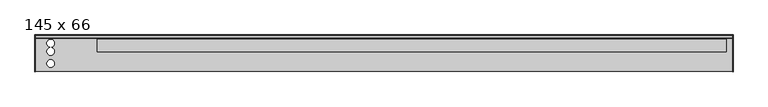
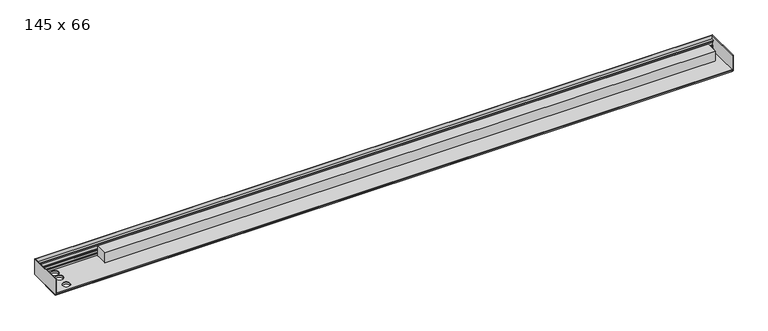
"""IFC4 building model written with IfcOpenShell, lengths in millimetres: proxy geometry, Mohlenhof_Внутрипольный конвектор_QSKM : 145 x 66."""

from ifc_helpers import new_model, si_unit, point, frame, frame_2d, origin, place, context, project, spatial, polyline, circle_curve, trimmed, segment, composite_curve, outline, extrude, source, transform, mapped, element, save


def proxy_145_x_66_4cadcc30(model_context):
    return source(origin(), model_context, "Body", "SweptSolid", [
        extrude(outline(polyline([(-100.0, -48.5473602), (-101.5, -49.2468216), (-102.5, -49.2468216), (-102.5, -46.0008038), (-105.0, -46.0008038), (-105.0, -56.5008038), (-102.5, -56.5008038), (-102.5, -53.2468216), (-101.5, -53.2468216), (-100.0, -53.9462831), (-100.0, -66.5), (-104.0, -66.5), (-104.0, -65.2), (-102.0, -65.2), (-102.0, -62.5), (-113.0, -62.5), (-113.0, -54.9172677), (-111.5827323, -53.5), (-108.0, -53.5), (-108.0, -45.91), (-106.0, -43.91), (-106.0, -39.5), (-105.0, -39.5), (-105.0, -43.5), (-102.5043561, -43.5), (-102.5043561, -23.0), (-105.0, -23.0), (-105.0, -27.0), (-106.0, -27.0), (-106.0, -17.0), (-111.6043561, -17.0), (-111.6043561, -15.0), (-101.6, -15.0), (-101.6, 0.0), (-100.0, 0.0), (-100.0, -48.5473602)])), frame((-1373.0, 0.0, 0.0), z_axis=(1.0, 0.0, 0.0), x_axis=(0.0, 1.0, 0.0)), (0.0, 0.0, 1.0), 2746.0),
        extrude(outline(polyline([(1373.0, -104.499991), (1373.0, -240.5), (-1373.0, -240.5), (-1373.0, -104.499991), (1373.0, -104.499991)]), holes=[composite_curve([segment(trimmed(circle_curve(frame_2d((-1313.0, -133.0)), 15.0), [point((-1328.0, -133.0))], [point((-1298.0, -133.0))], True, "CARTESIAN"), True, "CONTINUOUS"), segment(trimmed(circle_curve(frame_2d((-1313.0, -133.0)), 15.0), [point((-1298.0, -133.0))], [point((-1328.0, -133.0))], True, "CARTESIAN"), True, "CONTINUOUS")], self_intersect=False), composite_curve([segment(trimmed(circle_curve(frame_2d((-1313.0, -165.0)), 15.0), [point((-1328.0, -165.0))], [point((-1298.0, -165.0))], True, "CARTESIAN"), True, "CONTINUOUS"), segment(trimmed(circle_curve(frame_2d((-1313.0, -165.0)), 15.0), [point((-1298.0, -165.0))], [point((-1328.0, -165.0))], True, "CARTESIAN"), True, "CONTINUOUS")], self_intersect=False), composite_curve([segment(trimmed(circle_curve(frame_2d((-1313.0, -213.0)), 15.0), [point((-1328.0, -213.0))], [point((-1298.0, -213.0))], True, "CARTESIAN"), True, "CONTINUOUS"), segment(trimmed(circle_curve(frame_2d((-1313.0, -213.0)), 15.0), [point((-1298.0, -213.0))], [point((-1328.0, -213.0))], True, "CARTESIAN"), True, "CONTINUOUS")], self_intersect=False)]), frame((0.0, 0.0, -71.5), z_axis=(0.0, 0.0, 1.0), x_axis=(1.0, 0.0, 0.0)), (0.0, 0.0, 1.0), 6.3),
        extrude(outline(polyline([(1373.0, -102.0), (1373.0, -243.0), (-1373.0, -243.0), (-1373.0, -102.0), (1373.0, -102.0)]), holes=[composite_curve([segment(trimmed(circle_curve(frame_2d((-1313.0, -133.0)), 15.0), [point((-1328.0, -133.0))], [point((-1298.0, -133.0))], True, "CARTESIAN"), True, "CONTINUOUS"), segment(trimmed(circle_curve(frame_2d((-1313.0, -133.0)), 15.0), [point((-1298.0, -133.0))], [point((-1328.0, -133.0))], True, "CARTESIAN"), True, "CONTINUOUS")], self_intersect=False), composite_curve([segment(trimmed(circle_curve(frame_2d((-1313.0, -165.0)), 15.0), [point((-1328.0, -165.0))], [point((-1298.0, -165.0))], True, "CARTESIAN"), True, "CONTINUOUS"), segment(trimmed(circle_curve(frame_2d((-1313.0, -165.0)), 15.0), [point((-1298.0, -165.0))], [point((-1328.0, -165.0))], True, "CARTESIAN"), True, "CONTINUOUS")], self_intersect=False), composite_curve([segment(trimmed(circle_curve(frame_2d((-1313.0, -213.0)), 15.0), [point((-1328.0, -213.0))], [point((-1298.0, -213.0))], True, "CARTESIAN"), True, "CONTINUOUS"), segment(trimmed(circle_curve(frame_2d((-1313.0, -213.0)), 15.0), [point((-1298.0, -213.0))], [point((-1328.0, -213.0))], True, "CARTESIAN"), True, "CONTINUOUS")], self_intersect=False)]), frame((0.0, 0.0, -65.2), z_axis=(0.0, 0.0, 1.0), x_axis=(1.0, 0.0, 0.0)), (0.0, 0.0, 1.0), 2.7),
        extrude(outline(polyline([(1348.0, -117.0), (1348.0, -167.0), (-1130.0, -167.0), (-1130.0, -117.0), (1348.0, -117.0)])), frame((0.0, 0.0, -62.5), z_axis=(0.0, 0.0, 1.0), x_axis=(1.0, 0.0, 0.0)), (0.0, 0.0, 1.0), 43.0),
        extrude(outline(polyline([(1375.0, -245.0), (1373.0, -245.0), (1373.0, -100.0), (1375.0, -100.0), (1375.0, -245.0)])), frame((0.0, 0.0, -66.5), z_axis=(0.0, 0.0, 1.0), x_axis=(1.0, 0.0, 0.0)), (0.0, 0.0, 1.0), 66.5),
        extrude(outline(polyline([(-1373.0, -100.0), (-1373.0, -245.0), (-1375.0, -245.0), (-1375.0, -100.0), (-1373.0, -100.0)])), frame((0.0, 0.0, -66.5), z_axis=(0.0, 0.0, 1.0), x_axis=(1.0, 0.0, 0.0)), (0.0, 0.0, 1.0), 66.5),
    ])


if __name__ == "__main__":
    model = new_model("IFC4")
    model_context = context("Model", 3, world=origin())
    ifc_project = project(units=[si_unit("LENGTHUNIT", "METRE", prefix="MILLI")], contexts=[model_context])
    site = spatial("IfcSite", under=ifc_project)
    building = spatial("IfcBuilding", under=site)
    placement = place(None, origin())
    proxy_145_x_66_shape = proxy_145_x_66_4cadcc30(model_context)
    element("IfcBuildingElementProxy", 1, Name="Mohlenhof_Внутрипольный конвектор_QSKM : 145 x 66", ObjectType="Mohlenhof_Внутрипольный конвектор_QSKM : 145 x 66", at=placement, inside=building, context=model_context, shape_type="MappedRepresentation", body=[
        mapped(proxy_145_x_66_shape, transform((0.0, 0.0, 0.0), x_axis=(1.0, 0.0, 0.0), y_axis=(0.0, 1.0, 0.0), z_axis=(0.0, 0.0, 1.0))),
    ])
    save(model, "model.ifc")
